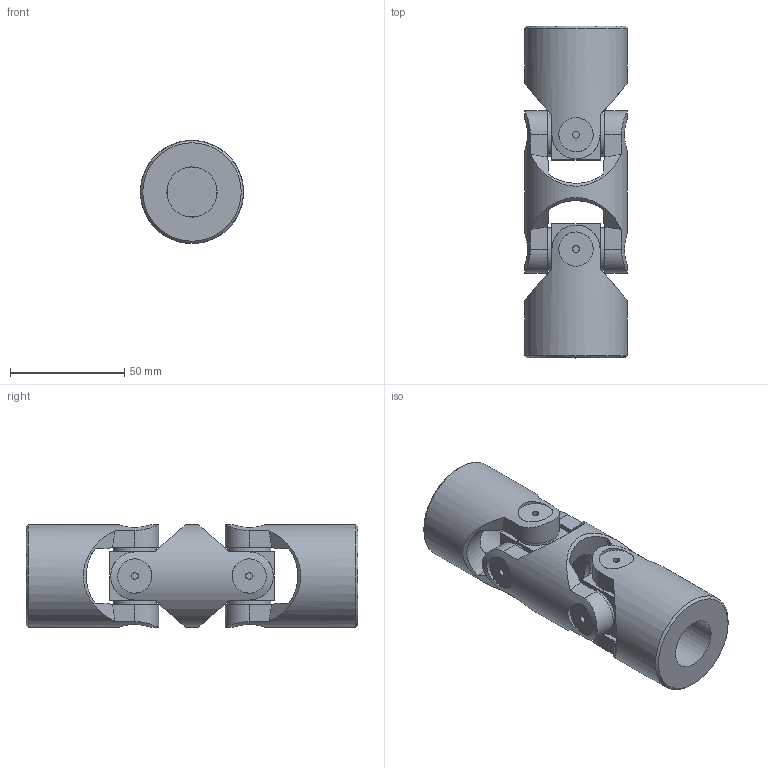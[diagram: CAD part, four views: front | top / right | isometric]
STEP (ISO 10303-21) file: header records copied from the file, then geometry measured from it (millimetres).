
FILE_DESCRIPTION(/* description */ (''),/* implementation_level */ '2;1');
FILE_NAME(/* name */ '\\SRV2016\Societa\Stefano\Disegni 3D\00Catalogo 3D\02Doppi GD-GBD\SG0D2200.stp',/* time_stamp */ '2021-11-23T15:11:07+01:00',/* author */ ('acquisti'),/* organization */ (''),/* preprocessor_version */ 'ST-DEVELOPER v15.6',/* originating_system */ 'Autodesk Inventor 2015',/* authorisation */ '');
FILE_SCHEMA (('AUTOMOTIVE_DESIGN { 1 0 10303 214 3 1 1 }'));
Length unit declared in the file: millimetre
Products named in the file (4): 4G MOD; 4GA SFE; 4G MOS; Ø45_4GD-00_SG0D2200
Assembly tree (5 placements, depth 2):
  Ø45_4GD-00_SG0D2200
    4G MOD
    4GA SFE  x2
    4G MOS  x2
Bounding box: 45 x 145 x 45 mm (x, y, z)
Volume: 147774.6 mm3; surface area: 40768.3 mm2
Topology: 5 solids, 5 shells, 137 faces, 329 edges, 222 vertices
Faces by surface type: plane 70, cylinder 41, cone 22, torus 4
Full cylindrical faces by diameter (mm): 3 x8, 15 x8, 19 x8, 22 x2, 23 x4, 45 x3
Entity records: 3256 total; most frequent: CARTESIAN_POINT 1166, ORIENTED_EDGE 398, DIRECTION 394, EDGE_CURVE 199, AXIS2_PLACEMENT_3D 173, VERTEX_POINT 153, EDGE_LOOP 140, FACE_OUTER_BOUND 94
